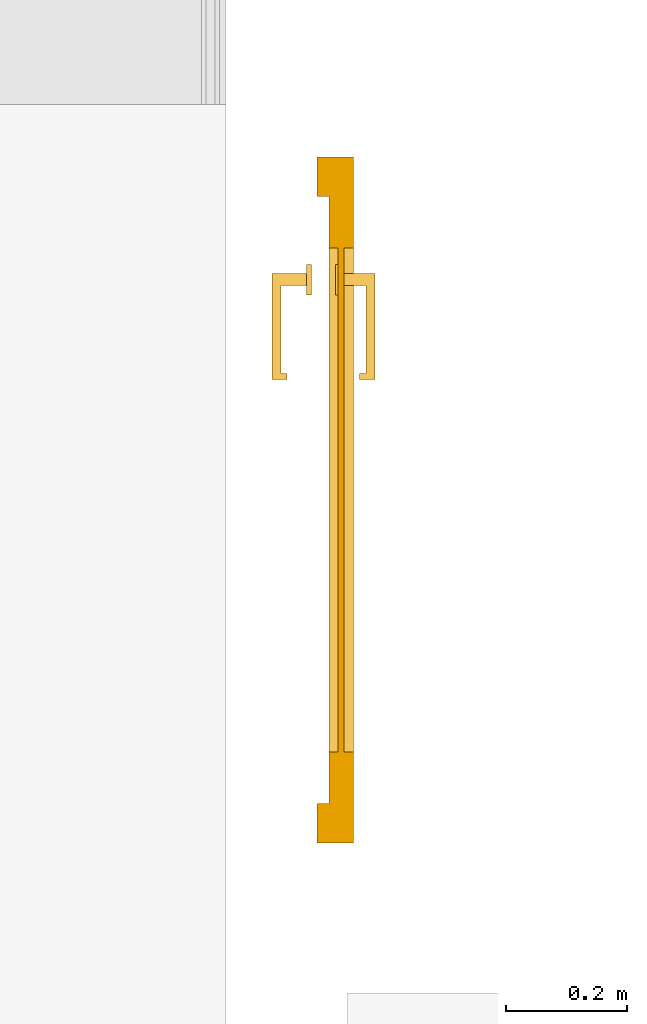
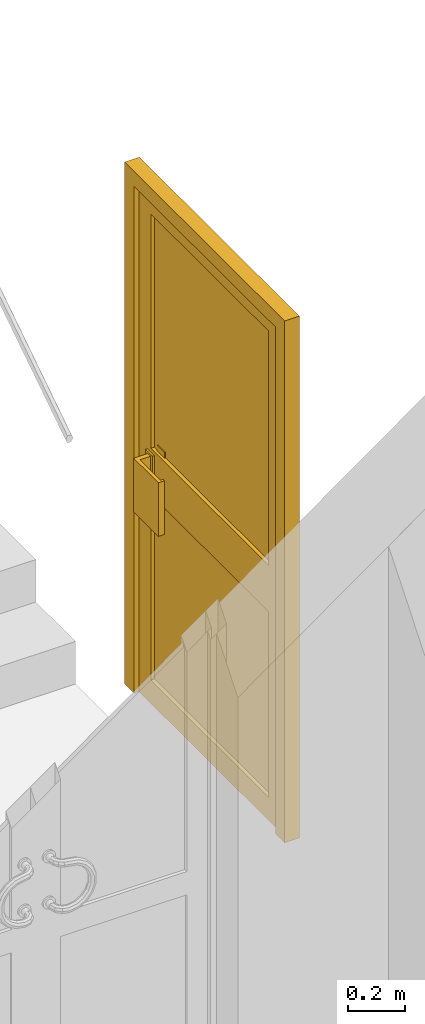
# One storey, part 7 of 10: 1 door.
"""IFC2X3 building model written with IfcOpenShell, lengths in metres."""

from ifc_helpers import new_model, entity, si_unit, converted_unit, derived_unit, direction, frame, origin, place, context, subcontext, project, spatial, faceted_brep, source, transform, mapped, material, material_list, type_object, type_shapes, element, save


model = new_model("IFC2X3")

# Units and contexts
model_context = context("Model", 3, precision=1e-05, world=origin(), true_north=direction((6.12303176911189e-17, 1.0)))
body_context = subcontext(model_context, "Body", "Model", "MODEL_VIEW")
ifc_project = project(units=[si_unit("LENGTHUNIT", "METRE"), si_unit("AREAUNIT", "SQUARE_METRE"), si_unit("VOLUMEUNIT", "CUBIC_METRE"), converted_unit("PLANEANGLEUNIT", "DEGREE", entity("IfcRatioMeasure", 0.0174532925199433), si_unit("PLANEANGLEUNIT", "RADIAN"), dimensions=[0, 0, 0, 0, 0, 0, 0]), si_unit("MASSUNIT", "GRAM", prefix="KILO"), derived_unit("MASSDENSITYUNIT", [(si_unit("MASSUNIT", "GRAM", prefix="KILO"), 1), (si_unit("LENGTHUNIT", "METRE"), -3)]), derived_unit("MOMENTOFINERTIAUNIT", [(si_unit("LENGTHUNIT", "METRE"), 4)]), si_unit("TIMEUNIT", "SECOND"), si_unit("FREQUENCYUNIT", "HERTZ"), si_unit("THERMODYNAMICTEMPERATUREUNIT", "DEGREE_CELSIUS"), derived_unit("THERMALTRANSMITTANCEUNIT", [(si_unit("MASSUNIT", "GRAM", prefix="KILO"), 1), (si_unit("THERMODYNAMICTEMPERATUREUNIT", "KELVIN"), -1), (si_unit("TIMEUNIT", "SECOND"), -3)]), derived_unit("VOLUMETRICFLOWRATEUNIT", [(si_unit("LENGTHUNIT", "METRE"), 3), (si_unit("TIMEUNIT", "SECOND"), -1)]), si_unit("ELECTRICCURRENTUNIT", "AMPERE"), si_unit("ELECTRICVOLTAGEUNIT", "VOLT"), si_unit("POWERUNIT", "WATT"), si_unit("FORCEUNIT", "NEWTON", prefix="KILO"), si_unit("ILLUMINANCEUNIT", "LUX"), si_unit("LUMINOUSFLUXUNIT", "LUMEN"), si_unit("LUMINOUSINTENSITYUNIT", "CANDELA"), derived_unit("USERDEFINED", [(si_unit("MASSUNIT", "GRAM", prefix="KILO"), -1), (si_unit("LENGTHUNIT", "METRE"), -2), (si_unit("TIMEUNIT", "SECOND"), 3), (si_unit("LUMINOUSFLUXUNIT", "LUMEN"), 1)]), derived_unit("LINEARVELOCITYUNIT", [(si_unit("LENGTHUNIT", "METRE"), 1), (si_unit("TIMEUNIT", "SECOND"), -1)]), si_unit("PRESSUREUNIT", "PASCAL"), derived_unit("USERDEFINED", [(si_unit("LENGTHUNIT", "METRE"), -2), (si_unit("MASSUNIT", "GRAM", prefix="KILO"), 1), (si_unit("TIMEUNIT", "SECOND"), -2)]), derived_unit("LINEARFORCEUNIT", [(si_unit("MASSUNIT", "GRAM", prefix="KILO"), 1), (si_unit("LENGTHUNIT", "METRE"), 1), (si_unit("TIMEUNIT", "SECOND"), -2), (si_unit("LENGTHUNIT", "METRE"), -1)]), derived_unit("PLANARFORCEUNIT", [(si_unit("MASSUNIT", "GRAM", prefix="KILO"), 1), (si_unit("LENGTHUNIT", "METRE"), 1), (si_unit("TIMEUNIT", "SECOND"), -2), (si_unit("LENGTHUNIT", "METRE"), -2)])], contexts=[model_context])

# Site, building, storey
site_placement = place(None, origin())
site = spatial("IfcSite", under=ifc_project, at=site_placement, Name="Default", CompositionType="ELEMENT")
building_placement = place(site_placement, origin())
building = spatial("IfcBuilding", under=site, at=building_placement, CompositionType="ELEMENT")
storey_placement = place(building_placement, frame((0.0, 0.0, 0.893308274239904)))
storey = spatial("IfcBuildingStorey", under=building, at=storey_placement, Name="Niveau 00 - 02", CompositionType="ELEMENT", Elevation=0.893308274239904)

# Door
ifc_material_1 = material(Name="PVC - Blanc")
ifc_material_2 = material(Name="Verre")
ifc_material_list_1 = material_list([ifc_material_1, ifc_material_2])
ifc_material_list_2 = material_list([ifc_material_1, ifc_material_1, ifc_material_1])
door_style = type_object("IfcDoorStyle", Name="PVC Panneau Vitré - Traverse:103m x 2.20m", ConstructionType="NOTDEFINED", OperationType="SINGLE_SWING_LEFT", ParameterTakesPrecedence=False, Sizeable=False, material=ifc_material_list_2)
shared_shape = source(origin(), body_context, "Body", "Brep", [
    faceted_brep([(0.924774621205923, 0.559268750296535, 0.916027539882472), (0.923806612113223, 0.559268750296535, 0.917834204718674), (0.903214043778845, 0.559268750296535, 0.875000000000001), (0.925833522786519, 0.559268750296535, 0.914700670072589), (0.922955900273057, 0.559268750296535, 0.920071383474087), (0.922245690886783, 0.559268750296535, 0.922678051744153), (0.921695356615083, 0.559268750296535, 0.925583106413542), (0.921319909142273, 0.559268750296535, 0.928707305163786), (0.921129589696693, 0.559268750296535, 0.931965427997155), (0.921129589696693, 0.559268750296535, 0.935268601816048), (0.921319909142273, 0.559268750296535, 0.938526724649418), (0.921695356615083, 0.559268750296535, 0.941650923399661), (0.903214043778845, 0.559268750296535, 1.125), (0.922245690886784, 0.559268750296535, 0.94455597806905), (0.922955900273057, 0.559268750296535, 0.947162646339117), (0.923806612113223, 0.559268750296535, 0.94939982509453), (0.924774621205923, 0.559268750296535, 0.951206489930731), (0.925833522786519, 0.559268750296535, 0.952533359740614), (0.926954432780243, 0.559268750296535, 0.953344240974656), (0.92810677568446, 0.559268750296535, 0.953617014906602), (0.953214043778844, 0.559268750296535, 1.125), (0.929259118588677, 0.559268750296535, 0.953344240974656), (0.9303800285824, 0.559268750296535, 0.952533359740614), (0.931438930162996, 0.559268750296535, 0.951206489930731), (0.932406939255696, 0.559268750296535, 0.949399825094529), (0.933257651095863, 0.559268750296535, 0.947162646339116), (0.933967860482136, 0.559268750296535, 0.94455597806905), (0.934518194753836, 0.559268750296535, 0.941650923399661), (0.953214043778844, 0.559268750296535, 0.875000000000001), (0.934893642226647, 0.559268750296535, 0.938526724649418), (0.935083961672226, 0.559268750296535, 0.935268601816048), (0.935083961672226, 0.559268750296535, 0.931965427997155), (0.934893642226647, 0.559268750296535, 0.928707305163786), (0.934518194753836, 0.559268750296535, 0.925583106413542), (0.933967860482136, 0.559268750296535, 0.922678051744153), (0.933257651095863, 0.559268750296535, 0.920071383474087), (0.932406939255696, 0.559268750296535, 0.917834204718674), (0.931438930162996, 0.559268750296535, 0.916027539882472), (0.9303800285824, 0.559268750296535, 0.914700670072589), (0.929259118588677, 0.559268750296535, 0.913889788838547), (0.92810677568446, 0.559268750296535, 0.913617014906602), (0.926954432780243, 0.559268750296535, 0.913889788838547), (0.924774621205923, 0.567268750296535, 0.951206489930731), (0.923806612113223, 0.567268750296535, 0.94939982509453), (0.903214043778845, 0.567268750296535, 1.125), (0.925833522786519, 0.567268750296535, 0.952533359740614), (0.922955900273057, 0.567268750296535, 0.947162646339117), (0.922245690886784, 0.567268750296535, 0.94455597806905), (0.921695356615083, 0.567268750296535, 0.941650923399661), (0.903214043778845, 0.567268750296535, 0.875000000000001), (0.921319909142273, 0.567268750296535, 0.938526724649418), (0.921129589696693, 0.567268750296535, 0.935268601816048), (0.921129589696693, 0.567268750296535, 0.931965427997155), (0.921319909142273, 0.567268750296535, 0.928707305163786), (0.921695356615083, 0.567268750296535, 0.925583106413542), (0.922245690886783, 0.567268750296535, 0.922678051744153), (0.922955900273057, 0.567268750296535, 0.920071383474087), (0.923806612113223, 0.567268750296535, 0.917834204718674), (0.924774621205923, 0.567268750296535, 0.916027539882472), (0.925833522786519, 0.567268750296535, 0.914700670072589), (0.926954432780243, 0.567268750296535, 0.913889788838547), (0.92810677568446, 0.567268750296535, 0.913617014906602), (0.953214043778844, 0.567268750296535, 0.875000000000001), (0.929259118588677, 0.567268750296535, 0.913889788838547), (0.9303800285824, 0.567268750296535, 0.914700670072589), (0.931438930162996, 0.567268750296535, 0.916027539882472), (0.932406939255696, 0.567268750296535, 0.917834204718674), (0.933257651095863, 0.567268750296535, 0.920071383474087), (0.933967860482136, 0.567268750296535, 0.922678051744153), (0.934518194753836, 0.567268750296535, 0.925583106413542), (0.934893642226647, 0.567268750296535, 0.928707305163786), (0.935083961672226, 0.567268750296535, 0.931965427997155), (0.935083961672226, 0.567268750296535, 0.935268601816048), (0.934893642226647, 0.567268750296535, 0.938526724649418), (0.934518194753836, 0.567268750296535, 0.941650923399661), (0.953214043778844, 0.567268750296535, 1.125), (0.933967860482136, 0.567268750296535, 0.94455597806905), (0.933257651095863, 0.567268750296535, 0.947162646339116), (0.932406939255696, 0.567268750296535, 0.949399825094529), (0.931438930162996, 0.567268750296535, 0.951206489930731), (0.9303800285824, 0.567268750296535, 0.952533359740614), (0.929259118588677, 0.567268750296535, 0.953344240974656), (0.92810677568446, 0.567268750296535, 0.953617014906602), (0.926954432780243, 0.567268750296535, 0.953344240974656), (0.924277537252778, 0.563268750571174, 0.950360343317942), (0.92810677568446, 0.56322172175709, 0.913617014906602), (0.92810677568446, 0.563221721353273, 0.953617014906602), (0.921949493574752, 0.563268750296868, 0.924098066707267), (0.924523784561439, 0.563397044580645, 0.916434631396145), (0.921485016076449, 0.563268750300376, 0.940111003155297), (0.931936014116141, 0.563268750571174, 0.916873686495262), (0.934264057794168, 0.563268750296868, 0.943135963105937), (0.931689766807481, 0.563397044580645, 0.950799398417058), (0.93472853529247, 0.563268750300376, 0.927123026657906)], [[[0, 1, 2]], [[2, 3, 0]], [[4, 2, 1]], [[2, 4, 5]], [[2, 5, 6]], [[2, 6, 7]], [[2, 7, 8]], [[8, 9, 2]], [[10, 2, 9]], [[10, 11, 2]], [[2, 11, 12]], [[12, 11, 13]], [[12, 13, 14]], [[14, 15, 12]], [[16, 12, 15]], [[12, 16, 17]], [[12, 17, 18]], [[18, 19, 12]], [[20, 12, 19]], [[20, 19, 21]], [[20, 21, 22]], [[22, 23, 20]], [[20, 23, 24]], [[25, 20, 24]], [[20, 25, 26]], [[27, 20, 26]], [[28, 20, 27]], [[29, 28, 27]], [[30, 28, 29]], [[30, 31, 28]], [[28, 31, 32]], [[28, 32, 33]], [[28, 33, 34]], [[28, 34, 35]], [[28, 35, 36]], [[36, 37, 28]], [[37, 38, 28]], [[39, 28, 38]], [[28, 39, 40]], [[40, 41, 2]], [[2, 28, 40]], [[2, 41, 3]], [[42, 43, 44]], [[44, 45, 42]], [[46, 44, 43]], [[44, 46, 47]], [[44, 47, 48]], [[44, 48, 49]], [[48, 50, 49]], [[50, 51, 49]], [[49, 51, 52]], [[49, 52, 53]], [[54, 49, 53]], [[49, 54, 55]], [[49, 55, 56]], [[56, 57, 49]], [[58, 49, 57]], [[49, 58, 59]], [[49, 59, 60]], [[60, 61, 49]], [[62, 49, 61]], [[62, 61, 63]], [[62, 63, 64]], [[64, 65, 62]], [[62, 65, 66]], [[67, 62, 66]], [[62, 67, 68]], [[69, 62, 68]], [[62, 69, 70]], [[62, 70, 71]], [[72, 62, 71]], [[72, 73, 62]], [[73, 74, 62]], [[62, 74, 75]], [[75, 74, 76]], [[75, 76, 77]], [[75, 77, 78]], [[78, 79, 75]], [[79, 80, 75]], [[81, 75, 80]], [[75, 81, 82]], [[82, 83, 44]], [[44, 75, 82]], [[44, 83, 45]], [[44, 49, 2, 12]], [[44, 12, 20, 75]], [[62, 75, 20, 28]], [[62, 28, 2, 49]], [[84, 17, 16]], [[41, 40, 85]], [[61, 60, 85]], [[19, 18, 86]], [[83, 82, 86]], [[4, 87, 5]], [[42, 45, 84]], [[15, 84, 16]], [[87, 4, 88]], [[17, 84, 86]], [[10, 89, 11]], [[13, 11, 89]], [[42, 84, 43]], [[89, 84, 13]], [[9, 8, 89]], [[84, 14, 13]], [[9, 89, 10]], [[45, 86, 84]], [[55, 54, 87]], [[17, 86, 18]], [[57, 88, 58]], [[50, 48, 89]], [[83, 86, 45]], [[59, 58, 88]], [[43, 84, 46]], [[48, 47, 89]], [[46, 84, 47]], [[89, 51, 50]], [[84, 89, 47]], [[8, 7, 87]], [[6, 5, 87]], [[89, 8, 87]], [[87, 7, 6]], [[88, 4, 1]], [[85, 60, 59]], [[0, 88, 1]], [[3, 41, 85]], [[3, 85, 88]], [[87, 52, 89]], [[53, 52, 87]], [[54, 53, 87]], [[55, 87, 56]], [[56, 87, 88]], [[88, 0, 3]], [[88, 57, 56]], [[85, 59, 88]], [[84, 15, 14]], [[52, 51, 89]], [[90, 38, 37]], [[21, 19, 86]], [[82, 81, 86]], [[40, 39, 85]], [[63, 61, 85]], [[25, 91, 26]], [[65, 64, 90]], [[36, 90, 37]], [[91, 25, 92]], [[38, 90, 85]], [[32, 93, 33]], [[34, 33, 93]], [[65, 90, 66]], [[93, 90, 34]], [[31, 30, 93]], [[90, 35, 34]], [[31, 93, 32]], [[64, 85, 90]], [[76, 74, 91]], [[38, 85, 39]], [[78, 92, 79]], [[70, 69, 93]], [[63, 85, 64]], [[80, 79, 92]], [[66, 90, 67]], [[69, 68, 93]], [[67, 90, 68]], [[93, 71, 70]], [[90, 93, 68]], [[30, 29, 91]], [[27, 26, 91]], [[93, 30, 91]], [[91, 29, 27]], [[92, 25, 24]], [[86, 81, 80]], [[23, 92, 24]], [[22, 21, 86]], [[22, 86, 92]], [[91, 72, 93]], [[73, 72, 91]], [[74, 73, 91]], [[76, 91, 77]], [[77, 91, 92]], [[92, 23, 22]], [[92, 78, 77]], [[86, 80, 92]], [[90, 36, 35]], [[72, 71, 93]]]),
    faceted_brep([(0.93849999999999, 0.624096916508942, 1.11540214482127), (0.763214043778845, 0.624096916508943, 1.11540214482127), (0.763214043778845, 0.599096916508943, 1.11540214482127), (0.773214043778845, 0.599096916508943, 1.11540214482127), (0.773214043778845, 0.609096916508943, 1.11540214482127), (0.91849999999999, 0.609096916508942, 1.11540214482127), (0.91849999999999, 0.567268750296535, 1.11540214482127), (0.93849999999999, 0.567268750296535, 1.11540214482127), (0.93849999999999, 0.624096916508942, 0.883896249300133), (0.93849999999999, 0.567268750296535, 0.883896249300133), (0.91849999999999, 0.567268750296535, 0.883896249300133), (0.91849999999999, 0.609096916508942, 0.883896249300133), (0.773214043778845, 0.609096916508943, 0.883896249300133), (0.773214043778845, 0.599096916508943, 0.883896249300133), (0.763214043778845, 0.599096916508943, 0.883896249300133), (0.763214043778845, 0.624096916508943, 0.883896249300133)], [[[0, 1, 2, 3, 4, 5, 6, 7]], [[8, 9, 10, 11, 12, 13, 14, 15]], [[0, 8, 15, 1]], [[1, 15, 14, 2]], [[2, 14, 13, 3]], [[3, 13, 12, 4]], [[4, 12, 11, 5]], [[5, 11, 10, 6]], [[6, 10, 9, 7]], [[7, 9, 8, 0]]]),
    faceted_brep([(0.93849999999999, 0.454440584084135, 1.11540214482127), (0.93849999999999, 0.511268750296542, 1.11540214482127), (0.91849999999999, 0.511268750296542, 1.11540214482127), (0.91849999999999, 0.469440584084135, 1.11540214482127), (0.773214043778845, 0.469440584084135, 1.11540214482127), (0.773214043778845, 0.479440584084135, 1.11540214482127), (0.763214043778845, 0.479440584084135, 1.11540214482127), (0.763214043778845, 0.454440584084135, 1.11540214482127), (0.93849999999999, 0.454440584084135, 0.883896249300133), (0.763214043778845, 0.454440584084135, 0.883896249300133), (0.763214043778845, 0.479440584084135, 0.883896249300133), (0.773214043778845, 0.479440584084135, 0.883896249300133), (0.773214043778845, 0.469440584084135, 0.883896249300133), (0.91849999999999, 0.469440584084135, 0.883896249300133), (0.91849999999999, 0.511268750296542, 0.883896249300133), (0.93849999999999, 0.511268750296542, 0.883896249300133)], [[[0, 1, 2, 3, 4, 5, 6, 7]], [[8, 9, 10, 11, 12, 13, 14, 15]], [[7, 9, 8, 0]], [[6, 10, 9, 7]], [[5, 11, 10, 6]], [[4, 12, 11, 5]], [[3, 13, 12, 4]], [[2, 14, 13, 3]], [[1, 15, 14, 2]], [[0, 8, 15, 1]]]),
    faceted_brep([(0.924774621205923, 0.511268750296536, 0.916027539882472), (0.923806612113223, 0.511268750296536, 0.917834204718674), (0.903214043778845, 0.511268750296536, 0.875000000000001), (0.925833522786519, 0.511268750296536, 0.914700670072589), (0.922955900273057, 0.511268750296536, 0.920071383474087), (0.922245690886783, 0.511268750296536, 0.922678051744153), (0.921695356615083, 0.511268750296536, 0.925583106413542), (0.921319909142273, 0.511268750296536, 0.928707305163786), (0.921129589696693, 0.511268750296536, 0.931965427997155), (0.921129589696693, 0.511268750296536, 0.935268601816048), (0.921319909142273, 0.511268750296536, 0.938526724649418), (0.921695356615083, 0.511268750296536, 0.941650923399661), (0.903214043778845, 0.511268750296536, 1.125), (0.922245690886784, 0.511268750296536, 0.94455597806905), (0.922955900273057, 0.511268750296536, 0.947162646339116), (0.923806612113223, 0.511268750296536, 0.949399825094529), (0.924774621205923, 0.511268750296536, 0.951206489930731), (0.925833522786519, 0.511268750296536, 0.952533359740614), (0.926954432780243, 0.511268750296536, 0.953344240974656), (0.92810677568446, 0.511268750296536, 0.953617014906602), (0.953214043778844, 0.511268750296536, 1.125), (0.929259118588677, 0.511268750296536, 0.953344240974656), (0.9303800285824, 0.511268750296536, 0.952533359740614), (0.931438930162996, 0.511268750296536, 0.951206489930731), (0.932406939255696, 0.511268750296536, 0.949399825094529), (0.933257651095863, 0.511268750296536, 0.947162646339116), (0.933967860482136, 0.511268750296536, 0.94455597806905), (0.934518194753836, 0.511268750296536, 0.941650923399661), (0.953214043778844, 0.511268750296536, 0.875000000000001), (0.934893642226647, 0.511268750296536, 0.938526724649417), (0.935083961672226, 0.511268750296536, 0.935268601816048), (0.935083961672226, 0.511268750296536, 0.931965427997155), (0.934893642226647, 0.511268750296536, 0.928707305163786), (0.934518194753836, 0.511268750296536, 0.925583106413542), (0.933967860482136, 0.511268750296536, 0.922678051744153), (0.933257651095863, 0.511268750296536, 0.920071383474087), (0.932406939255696, 0.511268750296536, 0.917834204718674), (0.931438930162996, 0.511268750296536, 0.916027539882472), (0.9303800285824, 0.511268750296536, 0.914700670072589), (0.929259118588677, 0.511268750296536, 0.913889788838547), (0.92810677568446, 0.511268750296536, 0.913617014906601), (0.926954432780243, 0.511268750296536, 0.913889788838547), (0.924774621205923, 0.519268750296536, 0.951206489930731), (0.923806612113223, 0.519268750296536, 0.949399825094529), (0.903214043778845, 0.519268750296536, 1.125), (0.925833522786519, 0.519268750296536, 0.952533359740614), (0.922955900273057, 0.519268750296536, 0.947162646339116), (0.922245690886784, 0.519268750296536, 0.94455597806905), (0.921695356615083, 0.519268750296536, 0.941650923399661), (0.903214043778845, 0.519268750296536, 0.875000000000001), (0.921319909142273, 0.519268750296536, 0.938526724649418), (0.921129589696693, 0.519268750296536, 0.935268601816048), (0.921129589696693, 0.519268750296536, 0.931965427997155), (0.921319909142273, 0.519268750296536, 0.928707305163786), (0.921695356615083, 0.519268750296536, 0.925583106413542), (0.922245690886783, 0.519268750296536, 0.922678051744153), (0.922955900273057, 0.519268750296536, 0.920071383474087), (0.923806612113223, 0.519268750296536, 0.917834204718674), (0.924774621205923, 0.519268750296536, 0.916027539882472), (0.925833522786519, 0.519268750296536, 0.914700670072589), (0.926954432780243, 0.519268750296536, 0.913889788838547), (0.92810677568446, 0.519268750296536, 0.913617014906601), (0.953214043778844, 0.519268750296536, 0.875000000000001), (0.929259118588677, 0.519268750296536, 0.913889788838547), (0.9303800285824, 0.519268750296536, 0.914700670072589), (0.931438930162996, 0.519268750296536, 0.916027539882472), (0.932406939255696, 0.519268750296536, 0.917834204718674), (0.933257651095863, 0.519268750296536, 0.920071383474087), (0.933967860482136, 0.519268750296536, 0.922678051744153), (0.934518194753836, 0.519268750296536, 0.925583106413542), (0.934893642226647, 0.519268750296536, 0.928707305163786), (0.935083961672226, 0.519268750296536, 0.931965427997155), (0.935083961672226, 0.519268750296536, 0.935268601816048), (0.934893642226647, 0.519268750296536, 0.938526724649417), (0.934518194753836, 0.519268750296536, 0.941650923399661), (0.953214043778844, 0.519268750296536, 1.125), (0.933967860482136, 0.519268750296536, 0.94455597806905), (0.933257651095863, 0.519268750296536, 0.947162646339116), (0.932406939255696, 0.519268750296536, 0.949399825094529), (0.931438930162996, 0.519268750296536, 0.951206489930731), (0.9303800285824, 0.519268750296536, 0.952533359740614), (0.929259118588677, 0.519268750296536, 0.953344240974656), (0.92810677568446, 0.519268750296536, 0.953617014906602), (0.926954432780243, 0.519268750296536, 0.953344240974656), (0.924277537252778, 0.515268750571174, 0.950360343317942), (0.92810677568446, 0.51522172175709, 0.913617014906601), (0.92810677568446, 0.515221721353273, 0.953617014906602), (0.921949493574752, 0.515268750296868, 0.924098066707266), (0.924523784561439, 0.515397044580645, 0.916434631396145), (0.921485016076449, 0.515268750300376, 0.940111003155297), (0.931936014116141, 0.515268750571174, 0.916873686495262), (0.934264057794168, 0.515268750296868, 0.943135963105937), (0.931689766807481, 0.515397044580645, 0.950799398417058), (0.93472853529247, 0.515268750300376, 0.927123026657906)], [[[0, 1, 2]], [[2, 3, 0]], [[4, 2, 1]], [[2, 4, 5]], [[2, 5, 6]], [[2, 6, 7]], [[2, 7, 8]], [[8, 9, 2]], [[10, 2, 9]], [[10, 11, 2]], [[2, 11, 12]], [[12, 11, 13]], [[12, 13, 14]], [[14, 15, 12]], [[16, 12, 15]], [[12, 16, 17]], [[12, 17, 18]], [[18, 19, 12]], [[20, 12, 19]], [[20, 19, 21]], [[20, 21, 22]], [[22, 23, 20]], [[20, 23, 24]], [[25, 20, 24]], [[20, 25, 26]], [[27, 20, 26]], [[28, 20, 27]], [[29, 28, 27]], [[30, 28, 29]], [[30, 31, 28]], [[28, 31, 32]], [[28, 32, 33]], [[28, 33, 34]], [[28, 34, 35]], [[28, 35, 36]], [[36, 37, 28]], [[37, 38, 28]], [[39, 28, 38]], [[28, 39, 40]], [[40, 41, 2]], [[2, 28, 40]], [[2, 41, 3]], [[42, 43, 44]], [[44, 45, 42]], [[46, 44, 43]], [[44, 46, 47]], [[44, 47, 48]], [[44, 48, 49]], [[48, 50, 49]], [[50, 51, 49]], [[49, 51, 52]], [[49, 52, 53]], [[54, 49, 53]], [[49, 54, 55]], [[49, 55, 56]], [[56, 57, 49]], [[58, 49, 57]], [[49, 58, 59]], [[49, 59, 60]], [[60, 61, 49]], [[62, 49, 61]], [[62, 61, 63]], [[62, 63, 64]], [[64, 65, 62]], [[62, 65, 66]], [[67, 62, 66]], [[62, 67, 68]], [[69, 62, 68]], [[62, 69, 70]], [[62, 70, 71]], [[72, 62, 71]], [[72, 73, 62]], [[73, 74, 62]], [[62, 74, 75]], [[75, 74, 76]], [[75, 76, 77]], [[75, 77, 78]], [[78, 79, 75]], [[79, 80, 75]], [[81, 75, 80]], [[75, 81, 82]], [[82, 83, 44]], [[44, 75, 82]], [[44, 83, 45]], [[49, 2, 12, 44]], [[44, 12, 20, 75]], [[75, 20, 28, 62]], [[62, 28, 2, 49]], [[84, 17, 16]], [[41, 40, 85]], [[61, 60, 85]], [[19, 18, 86]], [[83, 82, 86]], [[4, 87, 5]], [[42, 45, 84]], [[15, 84, 16]], [[87, 4, 88]], [[17, 84, 86]], [[10, 89, 11]], [[13, 11, 89]], [[42, 84, 43]], [[89, 84, 13]], [[9, 8, 89]], [[84, 14, 13]], [[9, 89, 10]], [[45, 86, 84]], [[55, 54, 87]], [[17, 86, 18]], [[57, 88, 58]], [[50, 48, 89]], [[83, 86, 45]], [[59, 58, 88]], [[43, 84, 46]], [[48, 47, 89]], [[46, 84, 47]], [[89, 51, 50]], [[84, 89, 47]], [[8, 7, 87]], [[6, 5, 87]], [[89, 8, 87]], [[87, 7, 6]], [[88, 4, 1]], [[85, 60, 59]], [[0, 88, 1]], [[3, 41, 85]], [[3, 85, 88]], [[87, 52, 89]], [[53, 52, 87]], [[54, 53, 87]], [[55, 87, 56]], [[56, 87, 88]], [[88, 0, 3]], [[88, 57, 56]], [[85, 59, 88]], [[84, 15, 14]], [[52, 51, 89]], [[90, 38, 37]], [[21, 19, 86]], [[82, 81, 86]], [[40, 39, 85]], [[63, 61, 85]], [[25, 91, 26]], [[65, 64, 90]], [[36, 90, 37]], [[91, 25, 92]], [[38, 90, 85]], [[32, 93, 33]], [[34, 33, 93]], [[65, 90, 66]], [[93, 90, 34]], [[31, 30, 93]], [[90, 35, 34]], [[31, 93, 32]], [[64, 85, 90]], [[76, 74, 91]], [[38, 85, 39]], [[78, 92, 79]], [[70, 69, 93]], [[63, 85, 64]], [[80, 79, 92]], [[66, 90, 67]], [[69, 68, 93]], [[67, 90, 68]], [[93, 71, 70]], [[90, 93, 68]], [[30, 29, 91]], [[27, 26, 91]], [[93, 30, 91]], [[91, 29, 27]], [[92, 25, 24]], [[86, 81, 80]], [[23, 92, 24]], [[22, 21, 86]], [[22, 86, 92]], [[91, 72, 93]], [[73, 72, 91]], [[74, 73, 91]], [[76, 91, 77]], [[77, 91, 92]], [[92, 23, 22]], [[92, 78, 77]], [[86, 80, 92]], [[90, 36, 35]], [[72, 71, 93]]]),
    faceted_brep([(1.12999999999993, 0.49000000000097, 0.0), (1.07999999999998, 0.49000000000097, 0.0), (1.07999999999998, 0.53000000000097, 0.0), (1.06499999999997, 0.53000000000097, 0.0), (1.06499999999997, 0.55000000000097, 0.0), (1.12999999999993, 0.55000000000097, 0.0), (1.12999999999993, 0.55000000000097, 2.25000000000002), (1.12999999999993, 0.49000000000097, 2.25000000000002), (1.06499999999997, 0.55000000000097, 2.18500000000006), (0.0649999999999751, 0.55000000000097, 2.18500000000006), (0.064999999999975, 0.55000000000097, 0.0), (0.0, 0.55000000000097, 0.0), (0.0, 0.55000000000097, 2.25000000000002), (1.06499999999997, 0.53000000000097, 2.18500000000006), (1.07999999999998, 0.53000000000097, 2.20000000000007), (0.0499999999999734, 0.53000000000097, 2.20000000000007), (0.0499999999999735, 0.53000000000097, 0.0), (0.0649999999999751, 0.53000000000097, 0.0), (0.0649999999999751, 0.53000000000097, 2.18500000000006), (1.07999999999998, 0.49000000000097, 2.20000000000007), (0.0, 0.49000000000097, 2.25000000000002), (0.0, 0.49000000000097, 0.0), (0.0499999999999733, 0.49000000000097, 0.0), (0.0499999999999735, 0.49000000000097, 2.20000000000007)], [[[0, 1, 2, 3, 4, 5]], [[5, 6, 7, 0]], [[4, 8, 9, 10, 11, 12, 6, 5]], [[3, 13, 8, 4]], [[2, 14, 15, 16, 17, 18, 13, 3]], [[1, 19, 14, 2]], [[0, 7, 20, 21, 22, 23, 19, 1]], [[12, 11, 21, 20]], [[21, 11, 10, 17, 16, 22]], [[18, 17, 10, 9]], [[23, 22, 16, 15]], [[6, 12, 20, 7]], [[13, 18, 9, 8]], [[19, 23, 15, 14]]]),
    faceted_brep([(0.979999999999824, 0.505000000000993, 2.11000000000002), (0.149999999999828, 0.50500000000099, 2.11000000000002), (0.149999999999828, 0.50500000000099, 1.1), (0.979999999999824, 0.505000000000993, 1.1), (0.979999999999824, 0.515000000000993, 1.1), (0.979999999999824, 0.515000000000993, 2.11000000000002), (0.149999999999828, 0.51500000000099, 1.1), (0.149999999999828, 0.51500000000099, 2.11000000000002)], [[[0, 1, 2, 3]], [[3, 4, 5, 0]], [[2, 6, 4, 3]], [[1, 7, 6, 2]], [[0, 5, 7, 1]], [[5, 4, 6, 7]]]),
    faceted_brep([(0.149999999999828, 0.51500000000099, 0.899999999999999), (0.979999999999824, 0.515000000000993, 0.899999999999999), (0.979999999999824, 0.515000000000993, 0.0999999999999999), (0.149999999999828, 0.51500000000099, 0.0999999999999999), (0.979999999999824, 0.505000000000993, 0.899999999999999), (0.149999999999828, 0.50500000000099, 0.899999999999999), (0.979999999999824, 0.505000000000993, 0.0999999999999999), (0.149999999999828, 0.50500000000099, 0.0999999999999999)], [[[0, 1, 2, 3]], [[4, 1, 0, 5]], [[6, 2, 1, 4]], [[7, 3, 2, 6]], [[5, 0, 3, 7]], [[5, 7, 6, 4]]]),
    faceted_brep([(1.07999999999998, 0.49000000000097, 2.20000000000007), (0.0499999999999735, 0.49000000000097, 2.20000000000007), (0.0499999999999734, 0.49000000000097, 0.0), (1.07999999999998, 0.49000000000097, 0.0), (0.149999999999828, 0.49000000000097, 2.11000000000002), (0.979999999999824, 0.49000000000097, 2.11000000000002), (0.979999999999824, 0.49000000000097, 1.1), (0.149999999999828, 0.49000000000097, 1.1), (0.149999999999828, 0.49000000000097, 0.0999999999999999), (0.149999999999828, 0.49000000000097, 0.9), (0.979999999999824, 0.49000000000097, 0.9), (0.979999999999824, 0.49000000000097, 0.0999999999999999), (1.07999999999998, 0.53000000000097, 2.20000000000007), (1.07999999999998, 0.53000000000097, 0.0), (0.0499999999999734, 0.53000000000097, 0.0), (0.0499999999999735, 0.53000000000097, 2.20000000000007), (0.149999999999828, 0.53000000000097, 2.11000000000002), (0.149999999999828, 0.53000000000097, 1.1), (0.979999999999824, 0.53000000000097, 1.1), (0.979999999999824, 0.53000000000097, 2.11000000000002), (0.149999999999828, 0.53000000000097, 0.0999999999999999), (0.979999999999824, 0.53000000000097, 0.0999999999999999), (0.979999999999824, 0.53000000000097, 0.9), (0.149999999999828, 0.53000000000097, 0.9)], [[[0, 1, 2, 3], [4, 5, 6, 7], [8, 9, 10, 11]], [[12, 13, 14, 15], [16, 17, 18, 19], [20, 21, 22, 23]], [[3, 13, 12, 0]], [[2, 14, 13, 3]], [[1, 15, 14, 2]], [[0, 12, 15, 1]], [[7, 17, 16, 4]], [[6, 18, 17, 7]], [[5, 19, 18, 6]], [[4, 16, 19, 5]], [[11, 21, 20, 8]], [[10, 22, 21, 11]], [[9, 23, 22, 10]], [[8, 20, 23, 9]]]),
])
type_shapes(door_style, [shared_shape])
door_placement = place(storey_placement, frame((-15.1358209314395, 11.7619176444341, 0.0), z_axis=(0.0, 0.0, 1.0), x_axis=(0.0, 1.0, 0.0)))
element("IfcDoor", 1, at=door_placement, inside=storey, type_object=door_style, material=ifc_material_list_1, Name="PVC Panneau Vitré - Traverse:103m x 2.20m", ObjectType="PVC Panneau Vitré - Traverse:103m x 2.20m", OverallHeight=2.25000000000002, OverallWidth=1.12999999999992, context=body_context, shape_type="MappedRepresentation", body=[
    mapped(shared_shape, transform((0.0, 0.0, 0.0), scale=1.0)),
])

save(model, "model.ifc")
